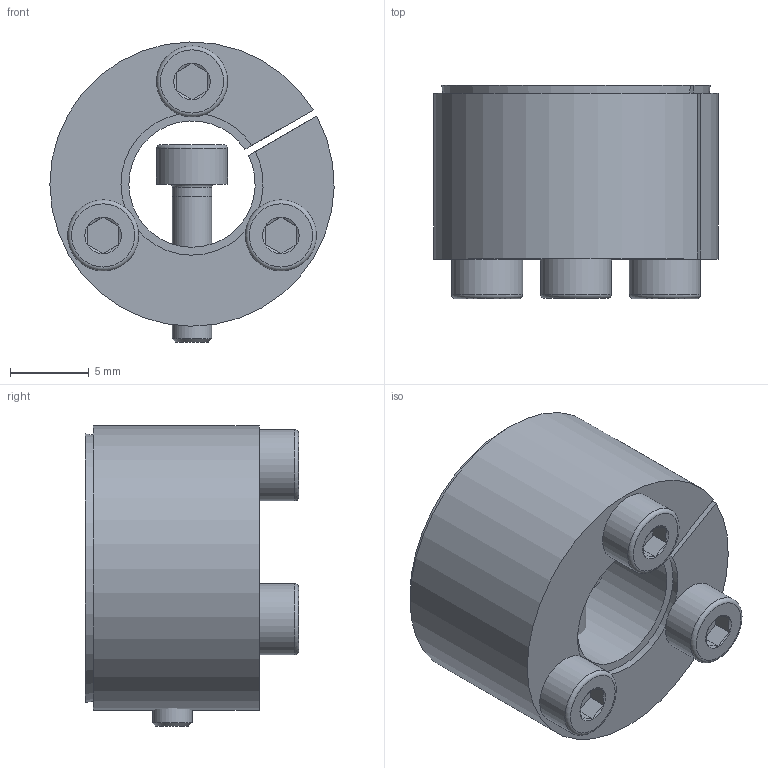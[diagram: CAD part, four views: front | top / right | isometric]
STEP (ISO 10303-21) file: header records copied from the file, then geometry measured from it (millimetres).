
FILE_DESCRIPTION( ( 'Unknown' ), '1' );
FILE_NAME( 'C:/Dokumente und Einstellungen/Sven/Desktop/homepage/cad - homepage/KBS61/KBS 61 - 8 x 18.stp', 'Unknown', ( 'Unknown' ), ( 'Unknown' ), 'XStep 1.0', 'Unknown', ' ' );
FILE_SCHEMA( ( 'automotive_design' ) );
Length unit declared in the file: millimetre
Products named in the file (5): Assem1; KBS 61 - 8 x 18; ISO EN DIN 4762 M2,5x10; ISO EN DIN 4762 M2,5x10-oa0; ISO EN DIN 4762 M2,5x10-oa1
Bounding box: 18 x 13.5 x 19 mm (x, y, z)
Volume: 4581.4 mm3; surface area: 4195.6 mm2
Topology: 8 solids, 8 shells, 176 faces, 330 edges, 194 vertices
Faces by surface type: plane 84, cone 46, cylinder 34, torus 12
Full cylindrical faces by diameter (mm): 2.1 x6, 2.5 x18, 4.5 x6
Entity records: 2356 total; most frequent: CARTESIAN_POINT 433, DIRECTION 364, ORIENTED_EDGE 270, AXIS2_PLACEMENT_3D 158, EDGE_CURVE 135, EDGE_LOOP 130, FACE_OUTER_BOUND 109, VERTEX_POINT 91
